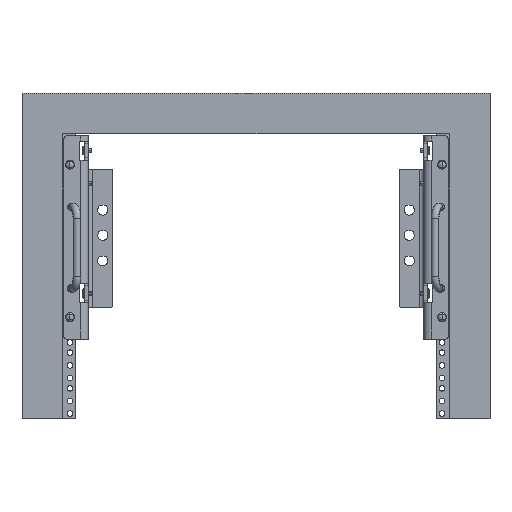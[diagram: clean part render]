
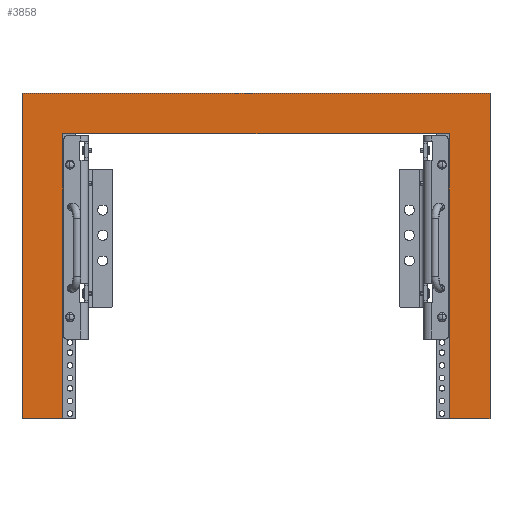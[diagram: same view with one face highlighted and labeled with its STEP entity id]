
A CAD part, top view. The second image highlights one B-rep face of the part: STEP entity #3858.
In plain terms, the highlighted planar face has unit normal (0, 0, 1).
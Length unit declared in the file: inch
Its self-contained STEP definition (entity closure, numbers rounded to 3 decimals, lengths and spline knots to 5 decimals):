
#339=DIRECTION('',(-1.,0.,0.));
#340=VECTOR('',#339,2.);
#341=CARTESIAN_POINT('',(-9.5155,-14.016,1.96));
#342=LINE('',#341,#340);
#374=DIRECTION('',(-1.,0.,0.));
#375=VECTOR('',#374,2.);
#376=CARTESIAN_POINT('',(11.5155,-14.016,1.96));
#377=LINE('',#376,#375);
#1247=DIRECTION('',(1.,0.,0.));
#1248=VECTOR('',#1247,19.031);
#1249=CARTESIAN_POINT('',(-9.5155,0.,1.96));
#1250=LINE('',#1249,#1248);
#1275=DIRECTION('',(0.,-1.,0.));
#1276=VECTOR('',#1275,16.016);
#1277=CARTESIAN_POINT('',(11.5155,2.,1.96));
#1278=LINE('',#1277,#1276);
#1282=DIRECTION('',(0.,-1.,0.));
#1283=VECTOR('',#1282,14.016);
#1284=CARTESIAN_POINT('',(-9.5155,0.,1.96));
#1285=LINE('',#1284,#1283);
#1289=DIRECTION('',(0.,1.,0.));
#1290=VECTOR('',#1289,16.016);
#1291=CARTESIAN_POINT('',(-11.5155,-14.016,1.96));
#1292=LINE('',#1291,#1290);
#1303=DIRECTION('',(1.,0.,0.));
#1304=VECTOR('',#1303,23.031);
#1305=CARTESIAN_POINT('',(-11.5155,2.,1.96));
#1306=LINE('',#1305,#1304);
#2204=DIRECTION('',(0.,-1.,0.));
#2205=VECTOR('',#2204,14.016);
#2206=CARTESIAN_POINT('',(9.5155,0.,1.96));
#2207=LINE('',#2206,#2205);
#2915=CARTESIAN_POINT('',(-9.5155,-14.016,1.96));
#2916=VERTEX_POINT('',#2915);
#2917=CARTESIAN_POINT('',(-11.5155,-14.016,1.96));
#2918=VERTEX_POINT('',#2917);
#2945=CARTESIAN_POINT('',(11.5155,-14.016,1.96));
#2946=VERTEX_POINT('',#2945);
#2947=CARTESIAN_POINT('',(9.5155,-14.016,1.96));
#2948=VERTEX_POINT('',#2947);
#2967=CARTESIAN_POINT('',(11.5155,2.,1.96));
#2969=VERTEX_POINT('',#2967);
#2973=CARTESIAN_POINT('',(-11.5155,2.,1.96));
#2974=VERTEX_POINT('',#2973);
#2979=CARTESIAN_POINT('',(-9.5155,0.,1.96));
#2980=VERTEX_POINT('',#2979);
#3003=CARTESIAN_POINT('',(9.5155,0.,1.96));
#3005=VERTEX_POINT('',#3003);
#3839=CARTESIAN_POINT('',(-9.5155,0.,1.96));
#3840=DIRECTION('',(0.,0.,1.));
#3841=DIRECTION('',(-1.,0.,0.));
#3842=AXIS2_PLACEMENT_3D('',#3839,#3840,#3841);
#3843=PLANE('',#3842);
#3845=ORIENTED_EDGE('',*,*,#3844,.T.);
#3846=ORIENTED_EDGE('',*,*,#3414,.T.);
#3848=ORIENTED_EDGE('',*,*,#3847,.F.);
#3849=ORIENTED_EDGE('',*,*,#3797,.F.);
#3850=ORIENTED_EDGE('',*,*,#3834,.T.);
#3851=ORIENTED_EDGE('',*,*,#3396,.T.);
#3853=ORIENTED_EDGE('',*,*,#3852,.T.);
#3855=ORIENTED_EDGE('',*,*,#3854,.T.);
#3856=EDGE_LOOP('',(#3845,#3846,#3848,#3849,#3850,#3851,#3853,#3855));
#3857=FACE_OUTER_BOUND('',#3856,.F.);
#3858=ADVANCED_FACE('',(#3857),#3843,.T.);
#3396=EDGE_CURVE('',#2916,#2918,#342,.T.);
#3414=EDGE_CURVE('',#2946,#2948,#377,.T.);
#3797=EDGE_CURVE('',#2980,#3005,#1250,.T.);
#3834=EDGE_CURVE('',#2980,#2916,#1285,.T.);
#3844=EDGE_CURVE('',#2969,#2946,#1278,.T.);
#3847=EDGE_CURVE('',#3005,#2948,#2207,.T.);
#3852=EDGE_CURVE('',#2918,#2974,#1292,.T.);
#3854=EDGE_CURVE('',#2974,#2969,#1306,.T.);
